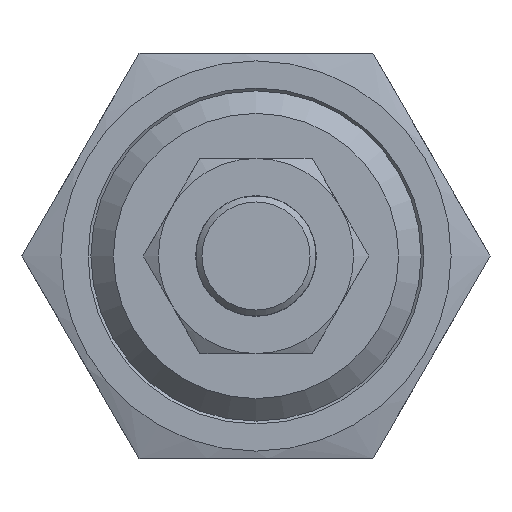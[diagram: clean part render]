
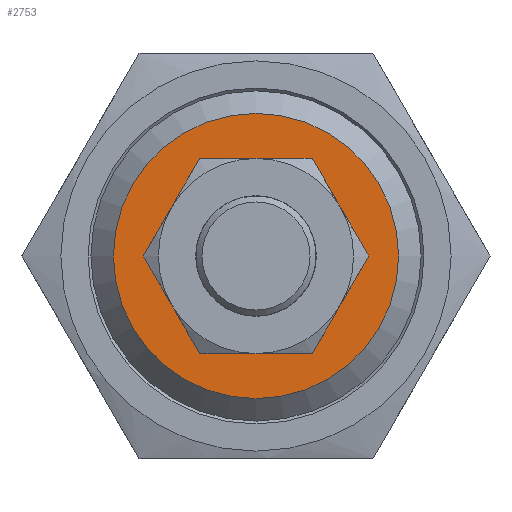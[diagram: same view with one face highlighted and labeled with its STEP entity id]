
A CAD part, front view. The second image highlights one B-rep face of the part: STEP entity #2753.
In plain terms, the highlighted planar face has unit normal (0, -1, 0).
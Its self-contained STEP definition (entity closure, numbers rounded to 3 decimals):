
#187=PLANE('',#3004);
#603=ORIENTED_EDGE('',*,*,#916,.T.);
#604=ORIENTED_EDGE('',*,*,#917,.F.);
#916=EDGE_CURVE('',#1113,#1113,#1255,.T.);
#917=EDGE_CURVE('',#1114,#1114,#1256,.T.);
#1113=VERTEX_POINT('',#4033);
#1114=VERTEX_POINT('',#4035);
#1255=CIRCLE('',#3005,9.5);
#1256=CIRCLE('',#3006,6.35);
#1428=EDGE_LOOP('',(#603));
#1429=EDGE_LOOP('',(#604));
#1643=FACE_BOUND('',#1428,.T.);
#1644=FACE_BOUND('',#1429,.T.);
#2753=ADVANCED_FACE('',(#1643,#1644),#187,.T.);
#3004=AXIS2_PLACEMENT_3D('',#4031,#3486,#3487);
#3005=AXIS2_PLACEMENT_3D('',#4032,#3488,#3489);
#3006=AXIS2_PLACEMENT_3D('',#4034,#3490,#3491);
#3486=DIRECTION('',(0.,-1.,0.));
#3487=DIRECTION('',(0.,0.,-1.));
#3488=DIRECTION('',(0.,-1.,0.));
#3489=DIRECTION('',(0.,0.,-1.));
#3490=DIRECTION('',(0.,-1.,0.));
#3491=DIRECTION('',(0.,0.,-1.));
#4031=CARTESIAN_POINT('',(0.,-76.25,5.5));
#4032=CARTESIAN_POINT('',(0.,-76.25,0.));
#4033=CARTESIAN_POINT('',(0.,-76.25,-9.5));
#4034=CARTESIAN_POINT('',(0.,-76.25,0.));
#4035=CARTESIAN_POINT('',(0.,-76.25,-6.35));
